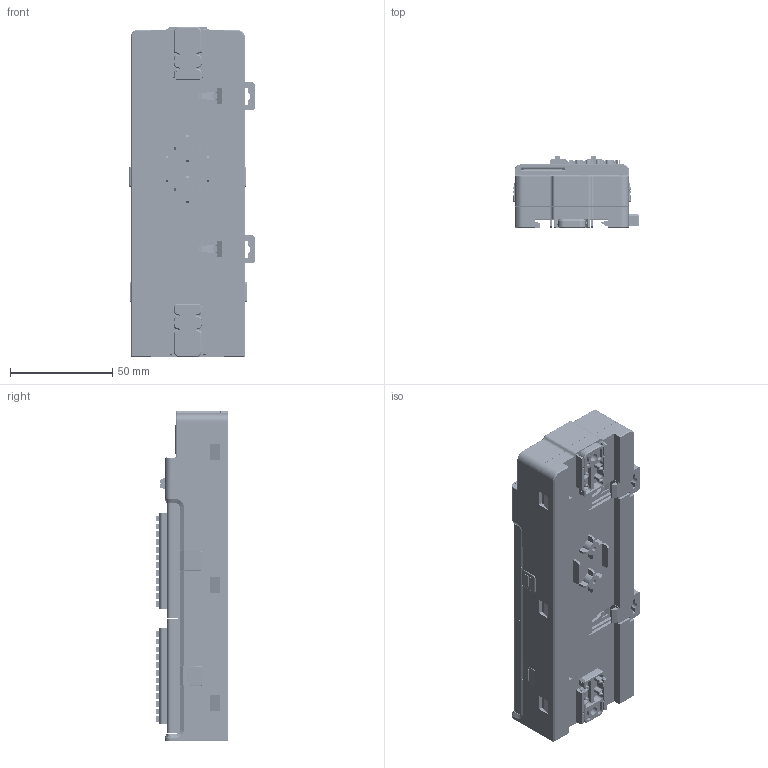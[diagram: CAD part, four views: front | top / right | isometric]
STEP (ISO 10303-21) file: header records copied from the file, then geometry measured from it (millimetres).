
FILE_DESCRIPTION(/* description */ (''),/* implementation_level */ '2;1');
FILE_NAME(/* name */ 'G2-FS-长款-欧式端子.stp',/* time_stamp */ '2022-12-03T11:35:37+08:00',/* author */ (''),/* organization */ (''),/* preprocessor_version */ 'ST-DEVELOPER v16',/* originating_system */ 'SIEMENS PLM Software NX 10.0',/* authorisation */ '');
FILE_SCHEMA (('AP203_CONFIGURATION_CONTROLLED_3D_DESIGN_OF_MECHANICAL_PARTS_AND_ASSEMBLIES_MIM_LF { 1 0 10303 403 2 1 2}'));
Products named in the file (1): 7349352C1CB7ak3q
Bounding box: 61.81 x 35.31 x 162 mm (x, y, z)
Volume: 234264.7 mm3; surface area: 126279.1 mm2
Topology: 105 solids, 252 shells, 16348 faces, 44075 edges, 28608 vertices
Faces by surface type: plane 11545, cylinder 3329, cone 745, bspline 479, torus 140, extrusion 84, sphere 22, revolution 4
Full cylindrical faces by diameter (mm): 0.6 x4, 0.76 x6, 0.8 x13, 0.9 x1, 0.92 x18, 1 x5, 1.1 x2, 1.2 x25, 1.24 x16, 1.26 x3, 1.36 x24, 1.5 x5, 1.64 x20, 1.7 x4, 2.35 x2, 3.2 x3, 3.3 x3, 4.2 x2, 6.05 x3, 6.15 x3
Entity records: 523197 total; most frequent: CARTESIAN_POINT 114967, ORIENTED_EDGE 87010, DIRECTION 81006, EDGE_CURVE 43585, VECTOR 33150, LINE 33066, VERTEX_POINT 28538, AXIS2_PLACEMENT_3D 23926
